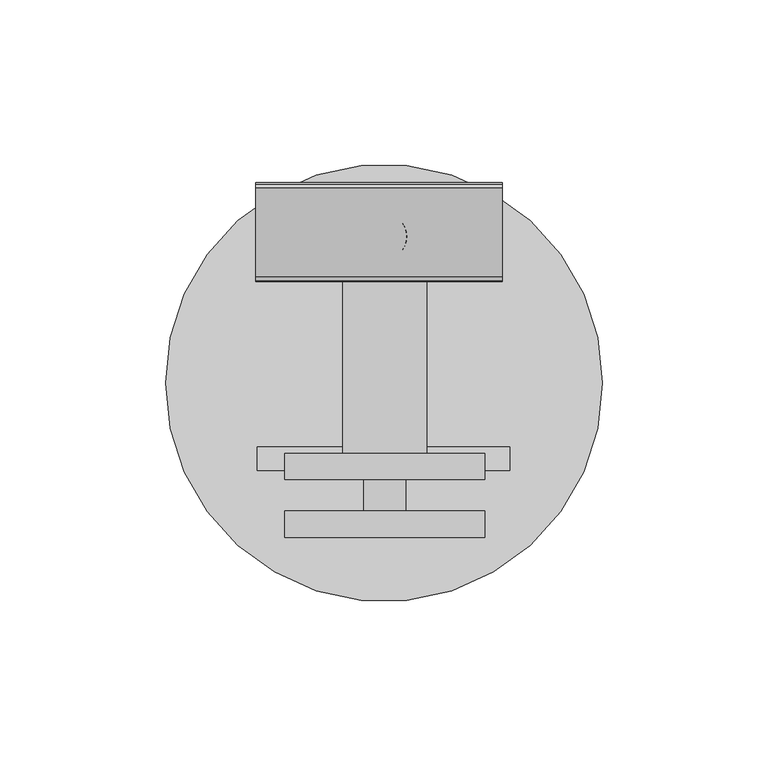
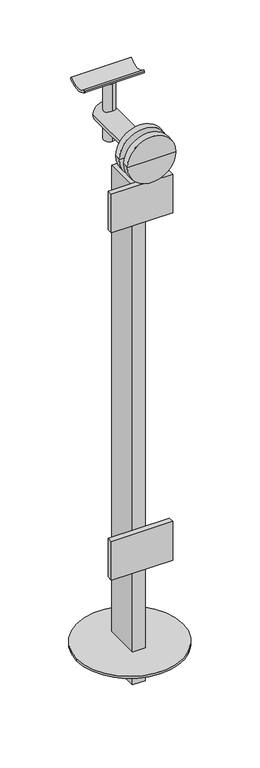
"""IFC4 building model written with IfcOpenShell, lengths in millimetres: proxy geometry, Baluster-End-Post-VIVA-STRUC-Top Mount-Stair : CORED INTO CONCRETE_TOP MOUNT STRUC_STAIR."""

import ifcopenshell
import ifcopenshell.guid

model = None  # the IFC model being written
_history = None  # IfcOwnerHistory: only IFC2X3 demands one
_inside = {}  # id of a spatial element -> (the spatial element, [elements in it])
_under = {}  # id of a project, library or spatial element -> (it, [spatial elements below it])
_declared = {}  # id of a project -> (the project, [libraries it declares])
_typed = {}  # id of a type object -> (the type object, [elements of that type])
_made_of = {}  # id of a material, layer set ... -> (it, [elements and type objects made of it])


def new_model(schema):
    """Start an empty IFC model of exactly this schema.

    Asked for "IFC4X3", IfcOpenShell would pick the latest addendum, in which some entities
    have other attributes; the version numbers below select the first issue.
    IFC2X3 requires an IfcOwnerHistory on every rooted entity: one is made here for all.
    """
    global model, _history
    if schema == "IFC4X3":
        model = ifcopenshell.file(schema_version=(4, 3, 0, 0))
    else:
        model = ifcopenshell.file(schema=schema)
    _inside.clear()
    _under.clear()
    _declared.clear()
    _typed.clear()
    _made_of.clear()
    _history = None
    if model.schema == "IFC2X3":
        org = make("IfcOrganization", Name="unknown")
        user = make(
            "IfcPersonAndOrganization",
            ThePerson=make("IfcPerson", FamilyName="unknown"),
            TheOrganization=org,
        )
        app = make(
            "IfcApplication",
            ApplicationDeveloper=org,
            Version="unknown",
            ApplicationFullName="unknown",
            ApplicationIdentifier="unknown",
        )
        _history = make(
            "IfcOwnerHistory",
            OwningUser=user,
            OwningApplication=app,
            ChangeAction="ADDED",
            CreationDate=0,
        )
    return model


def make(cls, **values):
    """One entity of the class cls with the attributes given. An attribute that is None is left unset."""
    return model.create_entity(
        cls, **{name: value for name, value in values.items() if value is not None}
    )


def rooted(cls, **values):
    """An entity with a GlobalId (a new one), such as an element, a storey or a relation."""
    return make(cls, GlobalId=ifcopenshell.guid.new(), OwnerHistory=_history, **values)


def si_unit(unit_type, name, prefix=None):
    """IfcSIUnit, for example si_unit("LENGTHUNIT", "METRE", prefix="MILLI")."""
    return make("IfcSIUnit", UnitType=unit_type, Prefix=prefix, Name=name)


def assignment(units):
    """IfcUnitAssignment: the units of a project."""
    return None if units is None else make("IfcUnitAssignment", Units=units)


def point(xyz):
    """IfcCartesianPoint."""
    return None if xyz is None else make("IfcCartesianPoint", Coordinates=xyz)


def direction(xyz):
    """IfcDirection."""
    return None if xyz is None else make("IfcDirection", DirectionRatios=xyz)


def frame(location, z_axis=None, x_axis=None):
    """IfcAxis2Placement3D, a coordinate frame: its origin and axes. An axis left out is left unset."""
    return make(
        "IfcAxis2Placement3D",
        Location=point(location),
        Axis=direction(z_axis),
        RefDirection=direction(x_axis),
    )


def frame_2d(location, x_axis=None):
    """IfcAxis2Placement2D, a coordinate frame in the plane: its origin and x axis."""
    return make(
        "IfcAxis2Placement2D", Location=point(location), RefDirection=direction(x_axis)
    )


def origin():
    """The frame at (0, 0, 0) with its axes left unset."""
    return frame((0.0, 0.0, 0.0))


def place(relative_to, where):
    """IfcLocalPlacement: puts the frame where relative to a parent placement (None: the world)."""
    return make(
        "IfcLocalPlacement", PlacementRelTo=relative_to, RelativePlacement=where
    )


def context(
    kind, dimensions, precision=None, world=None, true_north=None, identifier=None
):
    """IfcGeometricRepresentationContext, for example the 3D "Model" context."""
    return make(
        "IfcGeometricRepresentationContext",
        ContextIdentifier=identifier,
        ContextType=kind,
        CoordinateSpaceDimension=dimensions,
        Precision=precision,
        WorldCoordinateSystem=world,
        TrueNorth=true_north,
    )


def project(units=None, contexts=None):
    """IfcProject with its units and contexts."""
    return rooted(
        "IfcProject",
        Name="project",
        RepresentationContexts=contexts,
        UnitsInContext=assignment(units),
    )


def spatial(cls, under=None, at=None, **own):
    """A site, building, storey or space (cls), placed at a placement, below another one or the project."""
    s = rooted(cls, ObjectPlacement=at, **own)
    if under is not None:
        _under.setdefault(under.id(), (under, []))[1].append(s)
    return s


def polyline(points):
    """IfcPolyline through the points."""
    return make("IfcPolyline", Points=[point(p) for p in points])


def circle_curve(where, radius):
    """IfcCircle in the frame where."""
    return make("IfcCircle", Position=where, Radius=radius)


def trimmed(basis, trim1, trim2, sense, master):
    """IfcTrimmedCurve: the piece of a basis curve between two trims."""
    return make(
        "IfcTrimmedCurve",
        BasisCurve=basis,
        Trim1=trim1,
        Trim2=trim2,
        SenseAgreement=sense,
        MasterRepresentation=master,
    )


def segment(curve, same_sense, transition):
    """IfcCompositeCurveSegment."""
    return make(
        "IfcCompositeCurveSegment",
        Transition=transition,
        SameSense=same_sense,
        ParentCurve=curve,
    )


def composite_curve(segments, self_intersect=None):
    """IfcCompositeCurve: segments joined end to end."""
    return make("IfcCompositeCurve", Segments=segments, SelfIntersect=self_intersect)


def outline(outer, holes=None, kind="AREA"):
    """IfcArbitraryClosedProfileDef: a profile drawn as a closed curve; with holes, ...WithVoids."""
    if holes is None:
        return make("IfcArbitraryClosedProfileDef", ProfileType=kind, OuterCurve=outer)
    return make(
        "IfcArbitraryProfileDefWithVoids",
        ProfileType=kind,
        OuterCurve=outer,
        InnerCurves=holes,
    )


def extrude(swept, where, along, depth):
    """IfcExtrudedAreaSolid: the profile swept, set in the frame where, extruded along a direction by depth."""
    return make(
        "IfcExtrudedAreaSolid",
        SweptArea=swept,
        Position=where,
        ExtrudedDirection=direction(along),
        Depth=depth,
    )


def shape(context_of_items, identifier, shape_type, items):
    """IfcShapeRepresentation: the items that make up one representation, for example the "Body"."""
    return make(
        "IfcShapeRepresentation",
        ContextOfItems=context_of_items,
        RepresentationIdentifier=identifier,
        RepresentationType=shape_type,
        Items=items,
    )


def source(mapping_origin, context_of_items, identifier, shape_type, items):
    """IfcRepresentationMap: a shape defined once, which mapped items show again and again."""
    return make(
        "IfcRepresentationMap",
        MappingOrigin=mapping_origin,
        MappedRepresentation=shape(context_of_items, identifier, shape_type, items),
    )


def transform(
    local_origin,
    x_axis=None,
    y_axis=None,
    z_axis=None,
    scale=None,
    scale2=None,
    scale3=None,
    uniform=True,
):
    """IfcCartesianTransformationOperator3D, or its non-uniform kind. x_axis, y_axis, z_axis: its Axis1, 2, 3."""
    if uniform:
        return make(
            "IfcCartesianTransformationOperator3D",
            Axis1=direction(x_axis),
            Axis2=direction(y_axis),
            LocalOrigin=point(local_origin),
            Scale=scale,
            Axis3=direction(z_axis),
        )
    return make(
        "IfcCartesianTransformationOperator3DnonUniform",
        Axis1=direction(x_axis),
        Axis2=direction(y_axis),
        LocalOrigin=point(local_origin),
        Scale=scale,
        Axis3=direction(z_axis),
        Scale2=scale2,
        Scale3=scale3,
    )


def mapped(mapping_source, mapping_target):
    """IfcMappedItem: shows the shape of a source again, moved by a transform."""
    return make(
        "IfcMappedItem", MappingSource=mapping_source, MappingTarget=mapping_target
    )


def made_of(thing, what):
    """Note that an element or type object is made of a material, layer set ...; save() writes the relation."""
    if what is not None:
        _made_of.setdefault(what.id(), (what, []))[1].append(thing)
    return thing


def element(
    cls,
    number,
    at=None,
    inside=None,
    cuts=None,
    type_object=None,
    material=None,
    context=None,
    identifier="Body",
    shape_type=None,
    held_by="IfcProductDefinitionShape",
    body=None,
    shapes=None,
    **own,
):
    """One element of the class cls, such as IfcWall. Its Tag is "e" and its number.

    at: its placement. inside: the storey or other place that contains it. cuts: it is an
    opening in that element (IfcRelVoidsElement). A single representation is given by context,
    identifier, shape_type and body (its items); several are given by shapes. held_by: the class
    of the entity that holds the representations. save() writes the other relations.
    """
    e = rooted(cls, Tag="e%d" % number, ObjectPlacement=at, **own)
    if body is not None:
        shapes = [shape(context, identifier, shape_type, body)]
    if shapes is not None:
        e.Representation = make(held_by, Representations=shapes)
    if inside is not None:
        _inside.setdefault(inside.id(), (inside, []))[1].append(e)
    if cuts is not None:
        rooted(
            "IfcRelVoidsElement", RelatingBuildingElement=cuts, RelatedOpeningElement=e
        )
    if type_object is not None:
        _typed.setdefault(type_object.id(), (type_object, []))[1].append(e)
    return made_of(e, material)


def aggregate(whole, parts):
    """IfcRelAggregates: a whole, such as a stair, and the parts it consists of."""
    return rooted("IfcRelAggregates", RelatingObject=whole, RelatedObjects=parts)


def save(model, path):
    """Write the relations noted so far, then the file.

    IfcRelAggregates (storeys below a building ...), IfcRelContainedInSpatialStructure (elements
    in a storey), IfcRelDefinesByType, IfcRelAssociatesMaterial and IfcRelDeclares: one each for
    every whole, place, type object, material and project.
    """
    for whole, parts in _under.values():
        aggregate(whole, parts)
    for where, things in _inside.values():
        rooted(
            "IfcRelContainedInSpatialStructure",
            RelatedElements=things,
            RelatingStructure=where,
        )
    for kind, things in _typed.values():
        rooted("IfcRelDefinesByType", RelatedObjects=things, RelatingType=kind)
    for what, things in _made_of.values():
        rooted("IfcRelAssociatesMaterial", RelatedObjects=things, RelatingMaterial=what)
    for by, libraries in _declared.values():
        rooted("IfcRelDeclares", RelatingContext=by, RelatedDefinitions=libraries)
    model.write(path)


def plane_surface(at):
    """IfcPlane: the flat surface through the origin of the frame at, square to its z axis."""
    return make("IfcPlane", Position=at)


def cylinder_surface(at, radius):
    """IfcCylindricalSurface: all points at the distance radius from the z axis of the frame at."""
    return make("IfcCylindricalSurface", Position=at, Radius=radius)


def advanced_brep(points, edges, surfaces, faces):
    """IfcAdvancedBrep: a solid bounded by faces that lie on surfaces and meet in shared edges.

    An edge is (start, end): straight between two places in points (the first is 0);
    or (start, end, curve); or (start, end, curve, False) where it runs against its curve.
    A face is (place in surfaces, loops), or (place, loops, False) where it looks against
    its surface's normal. A loop lists edges by number (the first is 1), with a minus sign
    where the edge is run from its end to its start. The first loop is the outer one.
    """
    corners = [point(p) for p in points]
    vertices = [make("IfcVertexPoint", VertexGeometry=c) for c in corners]
    made = []
    for start, end, *more in edges:
        made.append(
            make(
                "IfcEdgeCurve",
                EdgeStart=vertices[start],
                EdgeEnd=vertices[end],
                EdgeGeometry=more[0] if more else make("IfcPolyline", Points=[corners[start], corners[end]]),
                SameSense=more[1] if len(more) > 1 else True,
            )
        )
    hull = []
    for where, loops, *sense in faces:
        bounds = []
        for j, loop in enumerate(loops):
            ring = [make("IfcOrientedEdge", EdgeElement=made[abs(k) - 1], Orientation=k > 0) for k in loop]
            bounds.append(
                make(
                    "IfcFaceOuterBound" if j == 0 else "IfcFaceBound",
                    Bound=make("IfcEdgeLoop", EdgeList=ring),
                    Orientation=True,
                )
            )
        hull.append(make("IfcAdvancedFace", Bounds=bounds, FaceSurface=surfaces[where], SameSense=sense[0] if sense else True))
    return make("IfcAdvancedBrep", Outer=make("IfcClosedShell", CfsFaces=hull))


def building_element_proxy_5b57b0b3(model_context):
    return source(origin(), model_context, "Body", "SolidModel", [
        advanced_brep(
        [(30.4813346, -136.2128652, 156.7243555), (-29.8436654, -136.2128652, 156.7243555), (-6.0311654, -136.2128652, 156.7243555), (6.6688346, -136.2128652, 156.7243555), (30.4813346, -144.1503652, 156.7243555), (-29.8436654, -144.1503652, 156.7243555), (30.4813346, -118.7498509, 156.7243555), (-29.8436654, -118.7498509, 156.7243555), (-12.3811654, -118.7498509, 156.7243555), (13.0188346, -118.7498509, 156.7243555), (30.4813346, -126.6873509, 156.7243555), (-29.8436654, -126.6873509, 156.7243555), (0.3188346, -144.1503652, 156.7243555), (13.0188346, -39.3748509, 156.7243555), (-12.3811654, -39.3748509, 156.7243555), (0.3188346, -39.3748509, 156.7243555), (6.6688346, -126.6873509, 156.7243555), (-6.0311654, -126.6873509, 156.7243555)],
        [
            (0, 1, circle_curve(frame((0.3188346, -136.2128652, 156.7243555), z_axis=(0.0, 1.0, 0.0), x_axis=(-1.0, 0.0, 0.0)), 30.1625)),
            (1, 2),
            (2, 3, circle_curve(frame((0.3188346, -136.2128652, 156.7243555), z_axis=(0.0, -1.0, 0.0), x_axis=(-1.0, 0.0, 0.0)), 6.35)),
            (3, 0),
            (4, 5, circle_curve(frame((0.3188346, -144.1503652, 156.7243555), z_axis=(0.0, 1.0, 0.0), x_axis=(-1.0, 0.0, 0.0)), 30.1625)),
            (5, 1),
            (0, 4),
            (6, 7, circle_curve(frame((0.3188346, -118.7498509, 156.7243555), z_axis=(0.0, 1.0, 0.0), x_axis=(-1.0, 0.0, 0.0)), 30.1625)),
            (7, 8),
            (8, 9, circle_curve(frame((0.3188346, -118.7498509, 156.7243555), z_axis=(0.0, -1.0, 0.0), x_axis=(-1.0, 0.0, 0.0)), 12.7)),
            (9, 6),
            (10, 11, circle_curve(frame((0.3188346, -126.6873509, 156.7243555), z_axis=(0.0, 1.0, 0.0), x_axis=(-1.0, 0.0, 0.0)), 30.1625)),
            (11, 7),
            (6, 10),
            (5, 4, circle_curve(frame((0.3188346, -144.1503652, 156.7243555), z_axis=(0.0, 1.0, 0.0), x_axis=(-1.0, 0.0, 0.0)), 30.1625)),
            (0, 1, circle_curve(frame((0.3188346, -136.2128652, 156.7243555), z_axis=(0.0, -1.0, 0.0), x_axis=(-1.0, 0.0, 0.0)), 30.1625)),
            (12, 5),
            (4, 12),
            (13, 14, circle_curve(frame((0.3188346, -39.3748509, 156.7243555), z_axis=(0.0, 1.0, 0.0), x_axis=(-1.0, 0.0, 0.0)), 12.7)),
            (14, 15),
            (15, 13),
            (14, 13, circle_curve(frame((0.3188346, -39.3748509, 156.7243555), z_axis=(0.0, 1.0, 0.0), x_axis=(-1.0, 0.0, 0.0)), 12.7)),
            (8, 14),
            (13, 9),
            (8, 9, circle_curve(frame((0.3188346, -118.7498509, 156.7243555), z_axis=(0.0, 1.0, 0.0), x_axis=(-1.0, 0.0, 0.0)), 12.7)),
            (7, 6, circle_curve(frame((0.3188346, -118.7498509, 156.7243555), z_axis=(0.0, 1.0, 0.0), x_axis=(-1.0, 0.0, 0.0)), 30.1625)),
            (11, 10, circle_curve(frame((0.3188346, -126.6873509, 156.7243555), z_axis=(0.0, 1.0, 0.0), x_axis=(-1.0, 0.0, 0.0)), 30.1625)),
            (16, 17, circle_curve(frame((0.3188346, -126.6873509, 156.7243555), z_axis=(0.0, 1.0, 0.0), x_axis=(-1.0, 0.0, 0.0)), 6.35)),
            (17, 11),
            (10, 16),
            (17, 16, circle_curve(frame((0.3188346, -126.6873509, 156.7243555), z_axis=(0.0, 1.0, 0.0), x_axis=(-1.0, 0.0, 0.0)), 6.35)),
            (2, 17),
            (16, 3),
            (2, 3, circle_curve(frame((0.3188346, -136.2128652, 156.7243555), z_axis=(0.0, 1.0, 0.0), x_axis=(-1.0, 0.0, 0.0)), 6.35)),
        ],
        [
            plane_surface(frame((0.3188346, -136.2128652, 156.7243555), z_axis=(0.0, 1.0, 0.0), x_axis=(-1.0, 0.0, 0.0))),
            cylinder_surface(frame((0.3188346, -1650.6873509, 156.7243555), z_axis=(0.0, -1.0, 0.0), x_axis=(-1.0, 0.0, 0.0)), 30.1625),
            plane_surface(frame((0.3188346, -118.7498509, 156.7243555), z_axis=(0.0, 1.0, 0.0), x_axis=(-1.0, 0.0, 0.0))),
            plane_surface(frame((0.3188346, -144.1503652, 156.7243555), z_axis=(0.0, -1.0, 0.0), x_axis=(-1.0, 0.0, 0.0))),
            plane_surface(frame((0.3188346, -39.3748509, 156.7243555), z_axis=(0.0, 1.0, 0.0), x_axis=(-1.0, 0.0, 0.0))),
            cylinder_surface(frame((0.3188346, -1650.6873509, 156.7243555), z_axis=(0.0, -1.0, 0.0), x_axis=(-1.0, 0.0, 0.0)), 12.7),
            plane_surface(frame((0.3188346, -126.6873509, 156.7243555), z_axis=(0.0, -1.0, 0.0), x_axis=(-1.0, 0.0, 0.0))),
            cylinder_surface(frame((0.3188346, -1650.6873509, 156.7243555), z_axis=(0.0, -1.0, 0.0), x_axis=(-1.0, 0.0, 0.0)), 6.35),
        ],
        [
            (0, [[1, 2, 3, 4]]),
            (1, [[5, 6, -1, 7]]),
            (2, [[8, 9, 10, 11]]),
            (1, [[12, 13, -8, 14]]),
            (1, [[15, -7, 16, -6]]),
            (3, [[17, -5, 18]]),
            (3, [[-18, -15, -17]]),
            (4, [[19, 20, 21]]),
            (4, [[22, -21, -20]]),
            (5, [[-10, 23, -19, 24]]),
            (5, [[25, -24, -22, -23]]),
            (2, [[26, -11, -25, -9]]),
            (1, [[27, -14, -26, -13]]),
            (6, [[28, 29, -12, 30]]),
            (6, [[31, -30, -27, -29]]),
            (7, [[-3, 32, -28, 33]]),
            (7, [[34, -33, -31, -32]]),
            (0, [[-16, -4, -34, -2]]),
        ],
    ),
        extrude(outline(composite_curve([segment(trimmed(circle_curve(frame_2d((0.0, -7.0)), 7.0), [point((0.0, -14.0))], [point((0.0, 0.0))], False, "CARTESIAN"), True, "CONTINUOUS"), segment(trimmed(circle_curve(frame_2d((0.0, -7.0)), 7.0), [point((0.0, 0.0))], [point((0.0, -14.0))], False, "CARTESIAN"), True, "CONTINUOUS")], self_intersect=False)), frame((0.0962106, -60.22249, 129.823392), z_axis=(-0.0012664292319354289, 0.0, 0.9999991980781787), x_axis=(-0.9999991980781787, 0.0, -0.0012664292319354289)), (0.0, 0.0, 1.0), 75.97),
        extrude(outline(composite_curve([segment(polyline([(5.2466064, -13.9247915), (4.2292193, -14.9511811)]), True, "CONTINUOUS"), segment(trimmed(circle_curve(frame_2d((3.1638974, -13.8952033)), 1.5), [point((4.2292193, -14.9511811))], [point((2.0329757, -14.8806047))], False, "CARTESIAN"), True, "CONTINUOUS"), segment(trimmed(circle_curve(frame_2d((18.6575251, -0.3952033)), 22.05), [point((2.0329757, -14.8806047))], [point((2.0329757, 14.0901982))], False, "CARTESIAN"), True, "CONTINUOUS"), segment(trimmed(circle_curve(frame_2d((3.1638974, 13.1047967)), 1.5), [point((2.0329757, 14.0901982))], [point((4.2292193, 14.1607746))], False, "CARTESIAN"), True, "CONTINUOUS"), segment(polyline([(4.2292193, 14.1607746), (5.2466064, 13.134385)]), True, "CONTINUOUS"), segment(trimmed(circle_curve(frame_2d((18.6575251, -0.3952033)), 19.05), [point((5.2466064, 13.134385))], [point((5.2466064, -13.9247915))], True, "CARTESIAN"), True, "CONTINUOUS")], self_intersect=False)), frame((35.8856441, -51.4952577, 209.2122068), z_axis=(-0.9999999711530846, 0.0, 0.0002401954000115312), x_axis=(0.0002401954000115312, 0.0, 0.9999999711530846)), (0.0, 0.0, 1.0), 74.5229187),
        extrude(outline(polyline([(-38.1007192, -123.8478567), (-38.1007192, -116.7358567), (38.1007192, -116.7358567), (38.1007192, -123.8478567), (-38.1007192, -123.8478567)])), frame((0.0, 0.0, 61.2476928), z_axis=(0.0, 0.0, 1.0), x_axis=(1.0, 0.0, 0.0)), (0.0, 0.0, 1.0), 50.8),
        extrude(outline(polyline([(-38.1007192, -123.8478567), (-38.1007192, -116.7358567), (38.1007192, -116.7358567), (38.1007192, -123.8478567), (-38.1007192, -123.8478567)])), frame((0.0, 0.0, -395.9523072), z_axis=(0.0, 0.0, 1.0), x_axis=(1.0, 0.0, 0.0)), (0.0, 0.0, 1.0), 50.8),
        extrude(outline(composite_curve([segment(trimmed(circle_curve(frame_2d((0.11875, -97.3499934)), 66.0), [point((66.11875, -97.3499934))], [point((-65.88125, -97.3499934))], False, "CARTESIAN"), True, "CONTINUOUS"), segment(trimmed(circle_curve(frame_2d((0.11875, -97.3499934)), 66.0), [point((-65.88125, -97.3499934))], [point((66.11875, -97.3499934))], False, "CARTESIAN"), True, "CONTINUOUS")], self_intersect=False)), frame((0.0, 0.0, -508.6286445), z_axis=(0.0, 0.0, 1.0), x_axis=(1.0, 0.0, 0.0)), (0.0, 0.0, 1.0), 3.0),
        extrude(outline(polyline([(-7.9375, -72.2858567), (7.9375, -72.2858567), (7.9375, -116.7358567), (-7.9375, -116.7358567), (-7.9375, -72.2858567)])), frame((0.0, 0.0, -548.3523072), z_axis=(0.0, 0.0, 1.0), x_axis=(1.0, 0.0, 0.0)), (0.0, 0.0, 1.0), 656.9868373),
    ])


if __name__ == "__main__":
    model = new_model("IFC4")
    model_context = context("Model", 3, world=origin())
    ifc_project = project(units=[si_unit("LENGTHUNIT", "METRE", prefix="MILLI")], contexts=[model_context])
    site = spatial("IfcSite", under=ifc_project)
    building = spatial("IfcBuilding", under=site)
    placement = place(None, origin())
    building_element_proxy_shape = building_element_proxy_5b57b0b3(model_context)
    element("IfcBuildingElementProxy", 1, Name="Baluster-End-Post-VIVA-STRUC-Top Mount-Stair : CORED INTO CONCRETE_TOP MOUNT STRUC_STAIR", ObjectType="Baluster-End-Post-VIVA-STRUC-Top Mount-Stair : CORED INTO CONCRETE_TOP MOUNT STRUC_STAIR", at=placement, inside=building, context=model_context, shape_type="MappedRepresentation", body=[
        mapped(building_element_proxy_shape, transform((0.0, 0.0, 0.0), x_axis=(1.0, 0.0, 0.0), y_axis=(0.0, 1.0, 0.0), z_axis=(0.0, 0.0, 1.0))),
    ])
    save(model, "model.ifc")
